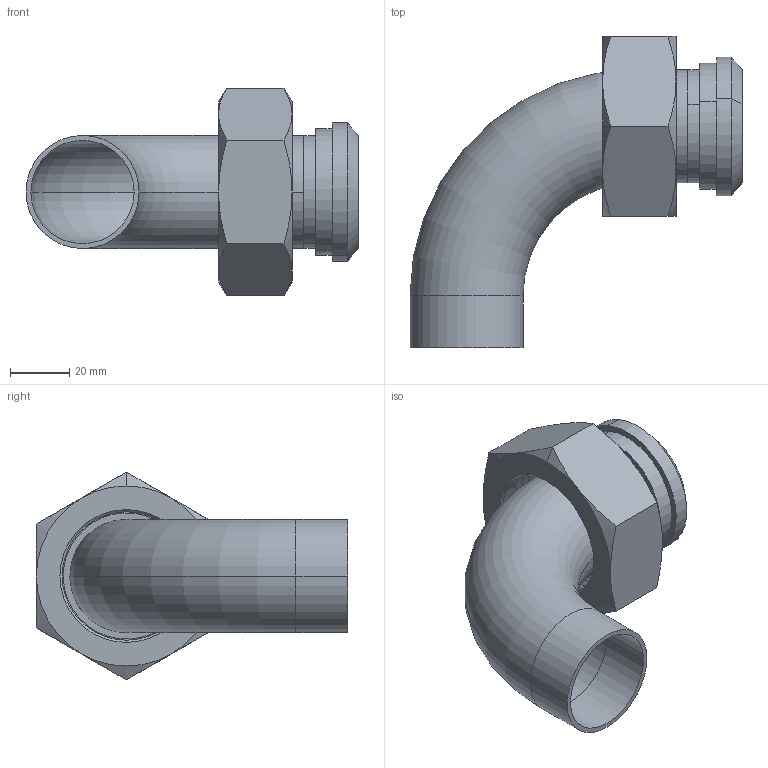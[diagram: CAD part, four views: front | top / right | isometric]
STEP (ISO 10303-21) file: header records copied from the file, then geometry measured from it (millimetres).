
FILE_DESCRIPTION (( 'STEP AP203' ), '1' );
FILE_NAME ('E2F1.5.STEP', '2018-05-02T13:06:22', ( 'vneprd' ), ( 'Microsoft' ), 'SwSTEP 2.0', 'SolidWorks 2014', '' );
FILE_SCHEMA (( 'CONFIG_CONTROL_DESIGN' ));
Length unit declared in the file: inch
Products named in the file (4): E2S1.5; 14PR1.5; 13H1.5; E2F1.5
Assembly tree (3 placements, depth 2):
  E2F1.5
    E2S1.5
    14PR1.5
    13H1.5
Bounding box: 111.94 x 104.95 x 70.1 mm (x, y, z)
Volume: 65106.1 mm3; surface area: 48400.8 mm2
Topology: 3 solids, 3 shells, 74 faces, 165 edges, 100 vertices
Faces by surface type: cylinder 28, cone 22, plane 17, torus 4, bspline 3
Entity records: 3537 total; most frequent: CARTESIAN_POINT 1534, DIRECTION 341, ORIENTED_EDGE 330, EDGE_CURVE 165, AXIS2_PLACEMENT_3D 144, VERTEX_POINT 100, EDGE_LOOP 83, ADVANCED_FACE 74
